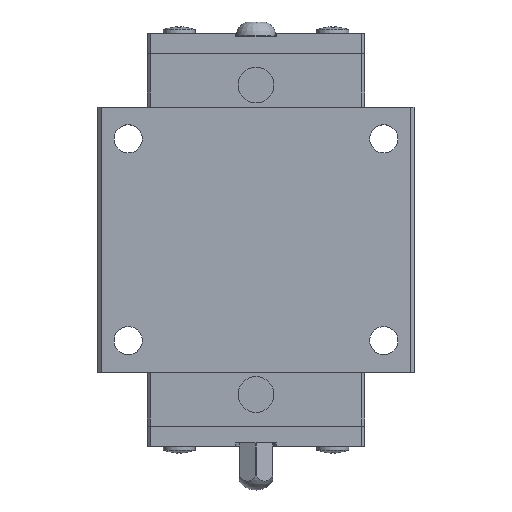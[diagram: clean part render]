
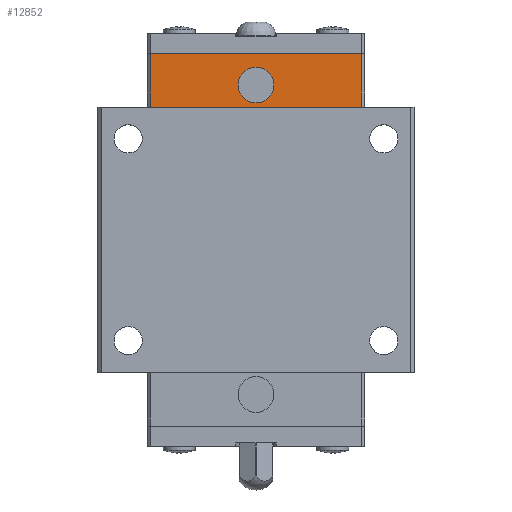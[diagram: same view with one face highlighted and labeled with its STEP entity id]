
A CAD part, top view. The second image highlights one B-rep face of the part: STEP entity #12852.
In plain terms, the highlighted planar face has unit normal (0, 0, 1).
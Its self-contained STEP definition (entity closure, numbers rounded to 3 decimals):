
#3389 = CYLINDRICAL_SURFACE('',#3390,2.65);
#3390 = AXIS2_PLACEMENT_3D('',#3391,#3392,#3393);
#3391 = CARTESIAN_POINT('',(0.,53.7,23.395));
#3392 = DIRECTION('',(-0.,-0.,-1.));
#3393 = DIRECTION('',(-1.,0.,0.));
#3414 = VERTEX_POINT('',#3415);
#3415 = CARTESIAN_POINT('',(2.65,53.7,23.795));
#3429 = CYLINDRICAL_SURFACE('',#3430,2.65);
#3430 = AXIS2_PLACEMENT_3D('',#3431,#3432,#3433);
#3431 = CARTESIAN_POINT('',(0.,53.7,23.395));
#3432 = DIRECTION('',(-0.,-0.,-1.));
#3433 = DIRECTION('',(-1.,0.,0.));
#3441 = EDGE_CURVE('',#3414,#3442,#3444,.T.);
#3442 = VERTEX_POINT('',#3443);
#3443 = CARTESIAN_POINT('',(-2.65,53.7,23.795));
#3444 = SURFACE_CURVE('',#3445,(#3450,#3457),.PCURVE_S1.);
#3445 = CIRCLE('',#3446,2.65);
#3446 = AXIS2_PLACEMENT_3D('',#3447,#3448,#3449);
#3447 = CARTESIAN_POINT('',(0.,53.7,23.795));
#3448 = DIRECTION('',(0.,0.,-1.));
#3449 = DIRECTION('',(-1.,0.,0.));
#3450 = PCURVE('',#3389,#3451);
#3451 = DEFINITIONAL_REPRESENTATION('',(#3452),#3456);
#3452 = LINE('',#3453,#3454);
#3453 = CARTESIAN_POINT('',(0.,-0.4));
#3454 = VECTOR('',#3455,1.);
#3455 = DIRECTION('',(1.,0.));
#3456 = ( GEOMETRIC_REPRESENTATION_CONTEXT(2) 
PARAMETRIC_REPRESENTATION_CONTEXT() REPRESENTATION_CONTEXT('2D SPACE',''
  ) );
#3457 = PCURVE('',#3458,#3463);
#3458 = PLANE('',#3459);
#3459 = AXIS2_PLACEMENT_3D('',#3460,#3461,#3462);
#3460 = CARTESIAN_POINT('',(15.695,50.4,23.795));
#3461 = DIRECTION('',(0.,0.,1.));
#3462 = DIRECTION('',(1.,-0.,0.));
#3463 = DEFINITIONAL_REPRESENTATION('',(#3464),#3472);
#3464 = ( BOUNDED_CURVE() B_SPLINE_CURVE(2,(#3465,#3466,#3467,#3468,
#3469,#3470,#3471),.UNSPECIFIED.,.T.,.F.) B_SPLINE_CURVE_WITH_KNOTS((1,2
    ,2,2,2,1),(-2.094,0.,2.094,4.189,
6.283,8.378),.UNSPECIFIED.) CURVE() 
GEOMETRIC_REPRESENTATION_ITEM() RATIONAL_B_SPLINE_CURVE((1.,0.5,1.,0.5,
1.,0.5,1.)) REPRESENTATION_ITEM('') );
#3465 = CARTESIAN_POINT('',(-18.345,3.3));
#3466 = CARTESIAN_POINT('',(-18.345,7.89));
#3467 = CARTESIAN_POINT('',(-14.37,5.595));
#3468 = CARTESIAN_POINT('',(-10.395,3.3));
#3469 = CARTESIAN_POINT('',(-14.37,1.005));
#3470 = CARTESIAN_POINT('',(-18.345,-1.29));
#3471 = CARTESIAN_POINT('',(-18.345,3.3));
#3472 = ( GEOMETRIC_REPRESENTATION_CONTEXT(2) 
PARAMETRIC_REPRESENTATION_CONTEXT() REPRESENTATION_CONTEXT('2D SPACE',''
  ) );
#5463 = PLANE('',#5464);
#5464 = AXIS2_PLACEMENT_3D('',#5465,#5466,#5467);
#5465 = CARTESIAN_POINT('',(0.,58.4,14.05));
#5466 = DIRECTION('',(0.,1.,0.));
#5467 = DIRECTION('',(-1.,0.,0.));
#5539 = VERTEX_POINT('',#5540);
#5540 = CARTESIAN_POINT('',(-15.695,58.4,23.795));
#5554 = PLANE('',#5555);
#5555 = AXIS2_PLACEMENT_3D('',#5556,#5557,#5558);
#5556 = CARTESIAN_POINT('',(-15.695,50.4,23.795));
#5557 = DIRECTION('',(-0.707,0.,0.707));
#5558 = DIRECTION('',(0.707,0.,0.707));
#5566 = EDGE_CURVE('',#5567,#5539,#5569,.T.);
#5567 = VERTEX_POINT('',#5568);
#5568 = CARTESIAN_POINT('',(15.695,58.4,23.795));
#5569 = SURFACE_CURVE('',#5570,(#5574,#5581),.PCURVE_S1.);
#5570 = LINE('',#5571,#5572);
#5571 = CARTESIAN_POINT('',(15.695,58.4,23.795));
#5572 = VECTOR('',#5573,1.);
#5573 = DIRECTION('',(-1.,0.,0.));
#5574 = PCURVE('',#5463,#5575);
#5575 = DEFINITIONAL_REPRESENTATION('',(#5576),#5580);
#5576 = LINE('',#5577,#5578);
#5577 = CARTESIAN_POINT('',(-15.695,9.745));
#5578 = VECTOR('',#5579,1.);
#5579 = DIRECTION('',(1.,0.));
#5580 = ( GEOMETRIC_REPRESENTATION_CONTEXT(2) 
PARAMETRIC_REPRESENTATION_CONTEXT() REPRESENTATION_CONTEXT('2D SPACE',''
  ) );
#5581 = PCURVE('',#3458,#5582);
#5582 = DEFINITIONAL_REPRESENTATION('',(#5583),#5587);
#5583 = LINE('',#5584,#5585);
#5584 = CARTESIAN_POINT('',(0.,8.));
#5585 = VECTOR('',#5586,1.);
#5586 = DIRECTION('',(-1.,0.));
#5587 = ( GEOMETRIC_REPRESENTATION_CONTEXT(2) 
PARAMETRIC_REPRESENTATION_CONTEXT() REPRESENTATION_CONTEXT('2D SPACE',''
  ) );
#5605 = PLANE('',#5606);
#5606 = AXIS2_PLACEMENT_3D('',#5607,#5608,#5609);
#5607 = CARTESIAN_POINT('',(16.195,50.4,23.295));
#5608 = DIRECTION('',(0.707,0.,0.707));
#5609 = DIRECTION('',(0.707,0.,-0.707));
#10879 = EDGE_CURVE('',#3442,#3414,#10880,.T.);
#10880 = SURFACE_CURVE('',#10881,(#10886,#10893),.PCURVE_S1.);
#10881 = CIRCLE('',#10882,2.65);
#10882 = AXIS2_PLACEMENT_3D('',#10883,#10884,#10885);
#10883 = CARTESIAN_POINT('',(0.,53.7,23.795));
#10884 = DIRECTION('',(0.,0.,-1.));
#10885 = DIRECTION('',(-1.,0.,0.));
#10886 = PCURVE('',#3429,#10887);
#10887 = DEFINITIONAL_REPRESENTATION('',(#10888),#10892);
#10888 = LINE('',#10889,#10890);
#10889 = CARTESIAN_POINT('',(0.,-0.4));
#10890 = VECTOR('',#10891,1.);
#10891 = DIRECTION('',(1.,0.));
#10892 = ( GEOMETRIC_REPRESENTATION_CONTEXT(2) 
PARAMETRIC_REPRESENTATION_CONTEXT() REPRESENTATION_CONTEXT('2D SPACE',''
  ) );
#10893 = PCURVE('',#3458,#10894);
#10894 = DEFINITIONAL_REPRESENTATION('',(#10895),#10903);
#10895 = ( BOUNDED_CURVE() B_SPLINE_CURVE(2,(#10896,#10897,#10898,#10899
    ,#10900,#10901,#10902),.UNSPECIFIED.,.T.,.F.) 
B_SPLINE_CURVE_WITH_KNOTS((1,2,2,2,2,1),(-2.094,0.,
    2.094,4.189,6.283,8.378),
.UNSPECIFIED.) CURVE() GEOMETRIC_REPRESENTATION_ITEM() 
RATIONAL_B_SPLINE_CURVE((1.,0.5,1.,0.5,1.,0.5,1.)) REPRESENTATION_ITEM(
  '') );
#10896 = CARTESIAN_POINT('',(-18.345,3.3));
#10897 = CARTESIAN_POINT('',(-18.345,7.89));
#10898 = CARTESIAN_POINT('',(-14.37,5.595));
#10899 = CARTESIAN_POINT('',(-10.395,3.3));
#10900 = CARTESIAN_POINT('',(-14.37,1.005));
#10901 = CARTESIAN_POINT('',(-18.345,-1.29));
#10902 = CARTESIAN_POINT('',(-18.345,3.3));
#10903 = ( GEOMETRIC_REPRESENTATION_CONTEXT(2) 
PARAMETRIC_REPRESENTATION_CONTEXT() REPRESENTATION_CONTEXT('2D SPACE',''
  ) );
#12624 = PLANE('',#12625);
#12625 = AXIS2_PLACEMENT_3D('',#12626,#12627,#12628);
#12626 = CARTESIAN_POINT('',(0.,50.4,15.27));
#12627 = DIRECTION('',(0.,-1.,0.));
#12628 = DIRECTION('',(1.,0.,0.));
#12808 = EDGE_CURVE('',#12809,#5567,#12811,.T.);
#12809 = VERTEX_POINT('',#12810);
#12810 = CARTESIAN_POINT('',(15.695,50.4,23.795));
#12811 = SURFACE_CURVE('',#12812,(#12816,#12823),.PCURVE_S1.);
#12812 = LINE('',#12813,#12814);
#12813 = CARTESIAN_POINT('',(15.695,50.4,23.795));
#12814 = VECTOR('',#12815,1.);
#12815 = DIRECTION('',(0.,1.,0.));
#12816 = PCURVE('',#5605,#12817);
#12817 = DEFINITIONAL_REPRESENTATION('',(#12818),#12822);
#12818 = LINE('',#12819,#12820);
#12819 = CARTESIAN_POINT('',(-0.707,0.));
#12820 = VECTOR('',#12821,1.);
#12821 = DIRECTION('',(0.,1.));
#12822 = ( GEOMETRIC_REPRESENTATION_CONTEXT(2) 
PARAMETRIC_REPRESENTATION_CONTEXT() REPRESENTATION_CONTEXT('2D SPACE',''
  ) );
#12823 = PCURVE('',#3458,#12824);
#12824 = DEFINITIONAL_REPRESENTATION('',(#12825),#12829);
#12825 = LINE('',#12826,#12827);
#12826 = CARTESIAN_POINT('',(0.,0.));
#12827 = VECTOR('',#12828,1.);
#12828 = DIRECTION('',(0.,1.));
#12829 = ( GEOMETRIC_REPRESENTATION_CONTEXT(2) 
PARAMETRIC_REPRESENTATION_CONTEXT() REPRESENTATION_CONTEXT('2D SPACE',''
  ) );
#12852 = ADVANCED_FACE('',(#12853,#12857),#3458,.T.);
#12853 = FACE_BOUND('',#12854,.T.);
#12854 = EDGE_LOOP('',(#12855,#12856));
#12855 = ORIENTED_EDGE('',*,*,#10879,.T.);
#12856 = ORIENTED_EDGE('',*,*,#3441,.T.);
#12857 = FACE_BOUND('',#12858,.T.);
#12858 = EDGE_LOOP('',(#12859,#12860,#12883,#12904));
#12859 = ORIENTED_EDGE('',*,*,#5566,.T.);
#12860 = ORIENTED_EDGE('',*,*,#12861,.F.);
#12861 = EDGE_CURVE('',#12862,#5539,#12864,.T.);
#12862 = VERTEX_POINT('',#12863);
#12863 = CARTESIAN_POINT('',(-15.695,50.4,23.795));
#12864 = SURFACE_CURVE('',#12865,(#12869,#12876),.PCURVE_S1.);
#12865 = LINE('',#12866,#12867);
#12866 = CARTESIAN_POINT('',(-15.695,50.4,23.795));
#12867 = VECTOR('',#12868,1.);
#12868 = DIRECTION('',(0.,1.,0.));
#12869 = PCURVE('',#3458,#12870);
#12870 = DEFINITIONAL_REPRESENTATION('',(#12871),#12875);
#12871 = LINE('',#12872,#12873);
#12872 = CARTESIAN_POINT('',(-31.39,0.));
#12873 = VECTOR('',#12874,1.);
#12874 = DIRECTION('',(0.,1.));
#12875 = ( GEOMETRIC_REPRESENTATION_CONTEXT(2) 
PARAMETRIC_REPRESENTATION_CONTEXT() REPRESENTATION_CONTEXT('2D SPACE',''
  ) );
#12876 = PCURVE('',#5554,#12877);
#12877 = DEFINITIONAL_REPRESENTATION('',(#12878),#12882);
#12878 = LINE('',#12879,#12880);
#12879 = CARTESIAN_POINT('',(0.,0.));
#12880 = VECTOR('',#12881,1.);
#12881 = DIRECTION('',(0.,1.));
#12882 = ( GEOMETRIC_REPRESENTATION_CONTEXT(2) 
PARAMETRIC_REPRESENTATION_CONTEXT() REPRESENTATION_CONTEXT('2D SPACE',''
  ) );
#12883 = ORIENTED_EDGE('',*,*,#12884,.F.);
#12884 = EDGE_CURVE('',#12809,#12862,#12885,.T.);
#12885 = SURFACE_CURVE('',#12886,(#12890,#12897),.PCURVE_S1.);
#12886 = LINE('',#12887,#12888);
#12887 = CARTESIAN_POINT('',(7.848,50.4,23.795));
#12888 = VECTOR('',#12889,1.);
#12889 = DIRECTION('',(-1.,0.,0.));
#12890 = PCURVE('',#3458,#12891);
#12891 = DEFINITIONAL_REPRESENTATION('',(#12892),#12896);
#12892 = LINE('',#12893,#12894);
#12893 = CARTESIAN_POINT('',(-7.848,0.));
#12894 = VECTOR('',#12895,1.);
#12895 = DIRECTION('',(-1.,0.));
#12896 = ( GEOMETRIC_REPRESENTATION_CONTEXT(2) 
PARAMETRIC_REPRESENTATION_CONTEXT() REPRESENTATION_CONTEXT('2D SPACE',''
  ) );
#12897 = PCURVE('',#12624,#12898);
#12898 = DEFINITIONAL_REPRESENTATION('',(#12899),#12903);
#12899 = LINE('',#12900,#12901);
#12900 = CARTESIAN_POINT('',(7.848,8.525));
#12901 = VECTOR('',#12902,1.);
#12902 = DIRECTION('',(-1.,0.));
#12903 = ( GEOMETRIC_REPRESENTATION_CONTEXT(2) 
PARAMETRIC_REPRESENTATION_CONTEXT() REPRESENTATION_CONTEXT('2D SPACE',''
  ) );
#12904 = ORIENTED_EDGE('',*,*,#12808,.T.);
